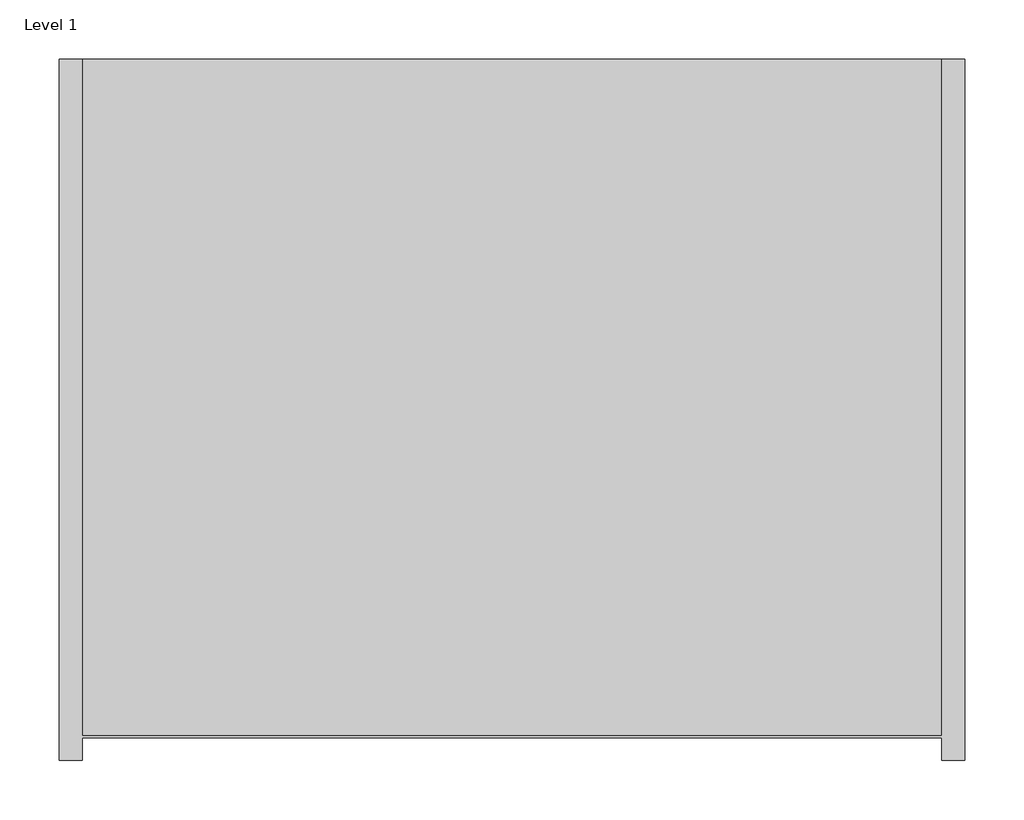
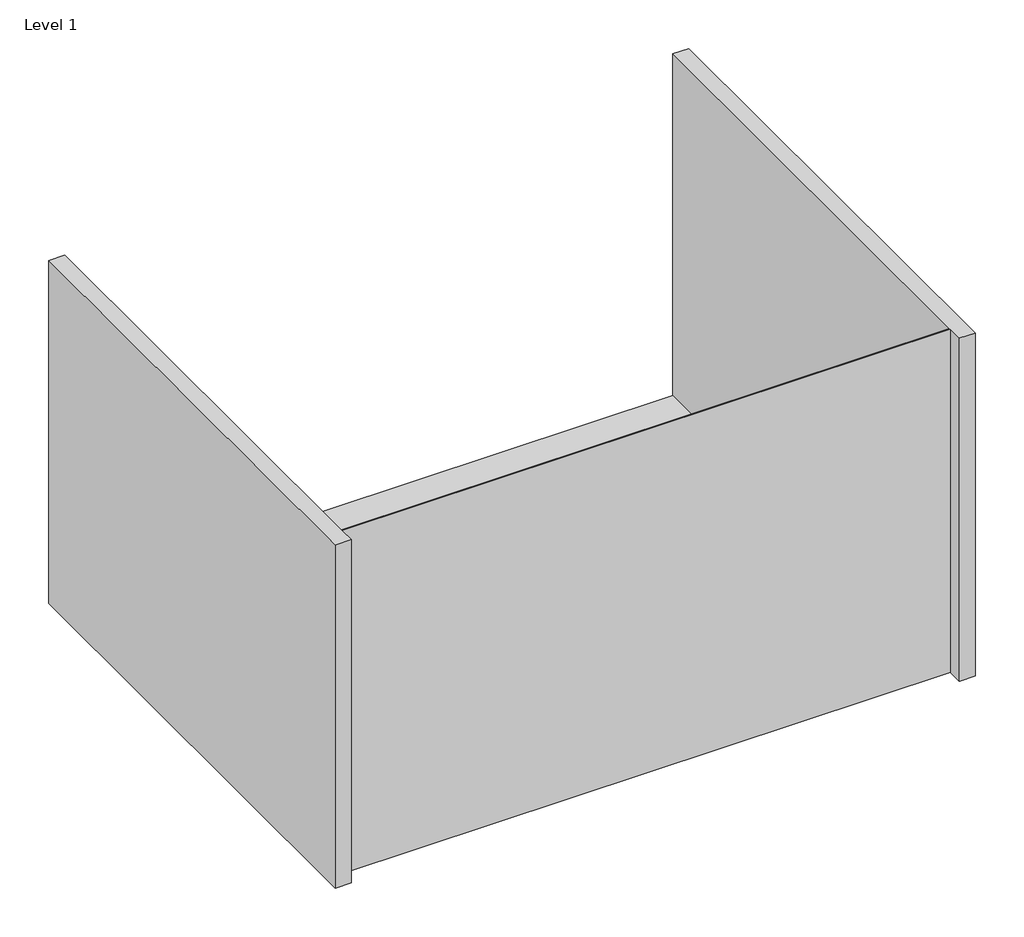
# One storey, incomplete: 1 furniture element.
"""IFC4 building model written with IfcOpenShell, lengths in millimetres."""

from ifc_helpers import new_model, si_unit, origin, place, context, project, spatial, transform, mapped, element, save
from components import furniture_3ba0fd14

model = new_model("IFC4")

# Units and contexts
model_context = context("Model", 3, world=origin())
ifc_project = project(units=[si_unit("LENGTHUNIT", "METRE", prefix="MILLI")], contexts=[model_context])

# Site, building, storey
site = spatial("IfcSite", under=ifc_project)
building = spatial("IfcBuilding", under=site)
storey = spatial("IfcBuildingStorey", under=building, Name="Level 1", Elevation=0.0)

# Furniture
placement = place(None, origin())
furniture_shape = furniture_3ba0fd14(model_context)
element("IfcFurniture", 1, ObjectType="HermanMiller_CoStruc_C2512_SinkModule : 18H x 24D x 30W", at=placement, inside=storey, context=model_context, shape_type="MappedRepresentation", body=[
    mapped(furniture_shape, transform((381.0, -168.275, 0.0), x_axis=(1.0, 0.0, 0.0), y_axis=(0.0, 1.0, 0.0), z_axis=(0.0, 0.0, 1.0))),
])

save(model, "model.ifc")
